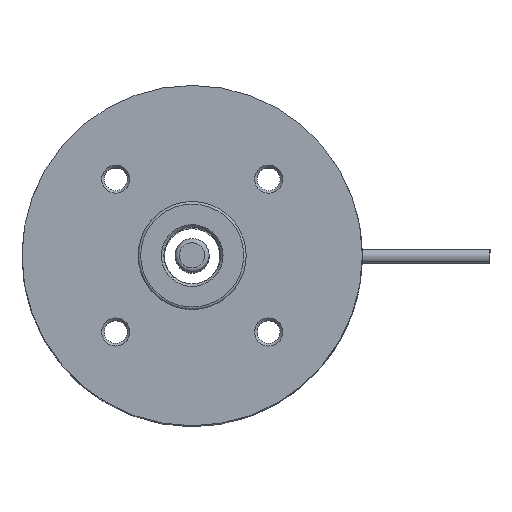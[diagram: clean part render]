
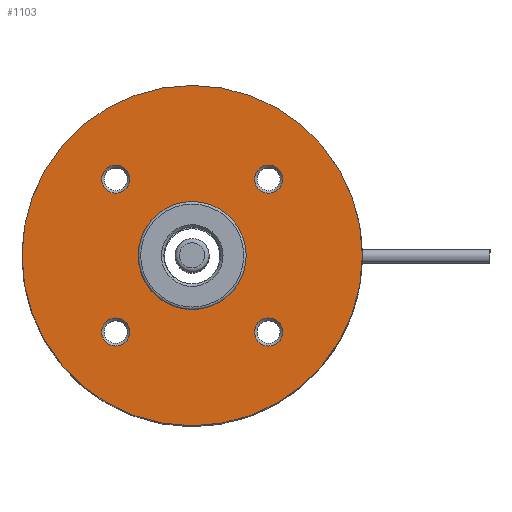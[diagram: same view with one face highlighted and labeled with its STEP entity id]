
A CAD part, top view. The second image highlights one B-rep face of the part: STEP entity #1103.
In plain terms, the highlighted planar face has unit normal (0, 0, 1).
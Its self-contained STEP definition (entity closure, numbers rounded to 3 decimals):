
#93=FACE_BOUND('',#223,.T.);
#94=FACE_BOUND('',#224,.T.);
#95=FACE_BOUND('',#225,.T.);
#96=FACE_BOUND('',#226,.T.);
#97=FACE_BOUND('',#227,.T.);
#122=PLANE('',#1331);
#152=FACE_OUTER_BOUND('',#222,.T.);
#222=EDGE_LOOP('',(#792));
#223=EDGE_LOOP('',(#793));
#224=EDGE_LOOP('',(#794));
#225=EDGE_LOOP('',(#795));
#226=EDGE_LOOP('',(#796));
#227=EDGE_LOOP('',(#797));
#457=CIRCLE('',#1330,1.65);
#458=CIRCLE('',#1332,20.);
#459=CIRCLE('',#1333,1.65);
#460=CIRCLE('',#1334,1.65);
#461=CIRCLE('',#1335,6.35);
#462=CIRCLE('',#1336,1.65);
#540=VERTEX_POINT('',#1897);
#541=VERTEX_POINT('',#1901);
#542=VERTEX_POINT('',#1903);
#543=VERTEX_POINT('',#1905);
#544=VERTEX_POINT('',#1907);
#545=VERTEX_POINT('',#1909);
#639=EDGE_CURVE('',#540,#540,#457,.T.);
#640=EDGE_CURVE('',#541,#541,#458,.T.);
#641=EDGE_CURVE('',#542,#542,#459,.T.);
#642=EDGE_CURVE('',#543,#543,#460,.T.);
#643=EDGE_CURVE('',#544,#544,#461,.T.);
#644=EDGE_CURVE('',#545,#545,#462,.T.);
#792=ORIENTED_EDGE('',*,*,#640,.F.);
#793=ORIENTED_EDGE('',*,*,#641,.F.);
#794=ORIENTED_EDGE('',*,*,#642,.F.);
#795=ORIENTED_EDGE('',*,*,#643,.T.);
#796=ORIENTED_EDGE('',*,*,#644,.F.);
#797=ORIENTED_EDGE('',*,*,#639,.F.);
#1103=ADVANCED_FACE('',(#152,#93,#94,#95,#96,#97),#122,.F.);
#1330=AXIS2_PLACEMENT_3D('',#1899,#1501,#1502);
#1331=AXIS2_PLACEMENT_3D('',#1900,#1503,#1504);
#1332=AXIS2_PLACEMENT_3D('',#1902,#1505,#1506);
#1333=AXIS2_PLACEMENT_3D('',#1904,#1507,#1508);
#1334=AXIS2_PLACEMENT_3D('',#1906,#1509,#1510);
#1335=AXIS2_PLACEMENT_3D('',#1908,#1511,#1512);
#1336=AXIS2_PLACEMENT_3D('',#1910,#1513,#1514);
#1501=DIRECTION('center_axis',(0.,0.,1.));
#1502=DIRECTION('ref_axis',(0.,-1.,0.));
#1503=DIRECTION('center_axis',(0.,0.,-1.));
#1504=DIRECTION('ref_axis',(-1.,0.,0.));
#1505=DIRECTION('center_axis',(0.,0.,-1.));
#1506=DIRECTION('ref_axis',(-1.,0.,0.));
#1507=DIRECTION('center_axis',(0.,0.,1.));
#1508=DIRECTION('ref_axis',(1.,0.,0.));
#1509=DIRECTION('center_axis',(0.,0.,1.));
#1510=DIRECTION('ref_axis',(-1.,0.,0.));
#1511=DIRECTION('center_axis',(0.,0.,-1.));
#1512=DIRECTION('ref_axis',(-1.,0.,0.));
#1513=DIRECTION('center_axis',(0.,0.,1.));
#1514=DIRECTION('ref_axis',(0.,1.,0.));
#1897=CARTESIAN_POINT('',(-8.98,-7.33,2.6));
#1899=CARTESIAN_POINT('Origin',(-8.98,-8.98,2.6));
#1900=CARTESIAN_POINT('Origin',(0.,0.,2.6));
#1901=CARTESIAN_POINT('',(20.,0.,2.6));
#1902=CARTESIAN_POINT('Origin',(0.,0.,2.6));
#1903=CARTESIAN_POINT('',(7.33,-8.98,2.6));
#1904=CARTESIAN_POINT('Origin',(8.98,-8.98,2.6));
#1905=CARTESIAN_POINT('',(-7.33,8.98,2.6));
#1906=CARTESIAN_POINT('Origin',(-8.98,8.98,2.6));
#1907=CARTESIAN_POINT('',(6.35,0.,2.6));
#1908=CARTESIAN_POINT('Origin',(0.,0.,2.6));
#1909=CARTESIAN_POINT('',(8.98,7.33,2.6));
#1910=CARTESIAN_POINT('Origin',(8.98,8.98,2.6));
